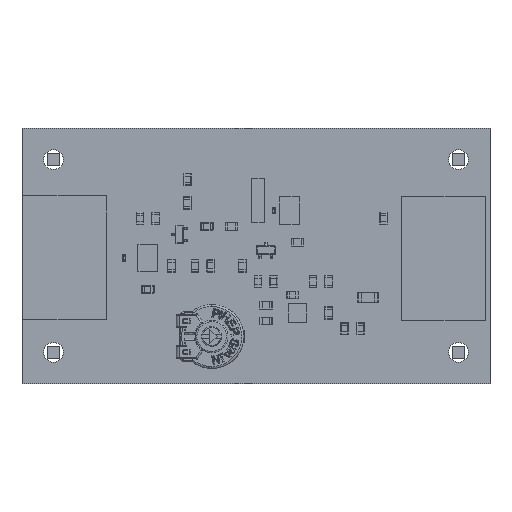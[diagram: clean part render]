
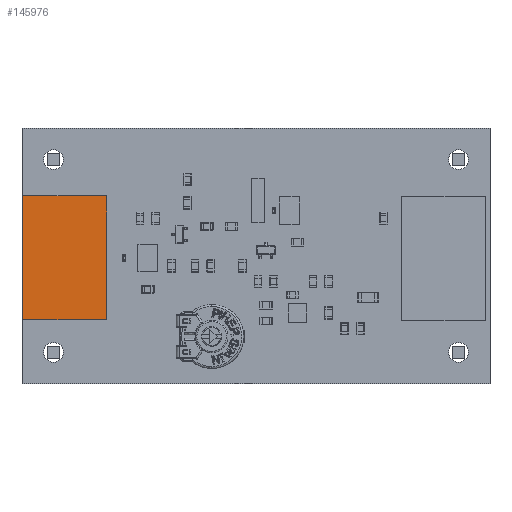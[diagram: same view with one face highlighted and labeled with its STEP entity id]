
A CAD part, top view. The second image highlights one B-rep face of the part: STEP entity #145976.
In plain terms, the highlighted planar face has unit normal (0, 0, 1).
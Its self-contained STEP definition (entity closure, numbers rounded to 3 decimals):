
#145662 = VERTEX_POINT('',#145663);
#145663 = CARTESIAN_POINT('',(-8.75,7.3,1.));
#145670 = PLANE('',#145671);
#145671 = AXIS2_PLACEMENT_3D('',#145672,#145673,#145674);
#145672 = CARTESIAN_POINT('',(-8.75,7.3,0.));
#145673 = DIRECTION('',(0.,1.,0.));
#145674 = DIRECTION('',(1.,0.,0.));
#145682 = PLANE('',#145683);
#145683 = AXIS2_PLACEMENT_3D('',#145684,#145685,#145686);
#145684 = CARTESIAN_POINT('',(-8.75,-6.25,0.));
#145685 = DIRECTION('',(-1.,0.,0.));
#145686 = DIRECTION('',(0.,1.,0.));
#145694 = EDGE_CURVE('',#145662,#145695,#145697,.T.);
#145695 = VERTEX_POINT('',#145696);
#145696 = CARTESIAN_POINT('',(11.25,7.3,1.));
#145697 = SURFACE_CURVE('',#145698,(#145702,#145709),.PCURVE_S1.);
#145698 = LINE('',#145699,#145700);
#145699 = CARTESIAN_POINT('',(-8.75,7.3,1.));
#145700 = VECTOR('',#145701,1.);
#145701 = DIRECTION('',(1.,0.,0.));
#145702 = PCURVE('',#145670,#145703);
#145703 = DEFINITIONAL_REPRESENTATION('',(#145704),#145708);
#145704 = LINE('',#145705,#145706);
#145705 = CARTESIAN_POINT('',(0.,-1.));
#145706 = VECTOR('',#145707,1.);
#145707 = DIRECTION('',(1.,0.));
#145708 = ( GEOMETRIC_REPRESENTATION_CONTEXT(2) 
PARAMETRIC_REPRESENTATION_CONTEXT() REPRESENTATION_CONTEXT('2D SPACE',''
  ) );
#145709 = PCURVE('',#145710,#145715);
#145710 = PLANE('',#145711);
#145711 = AXIS2_PLACEMENT_3D('',#145712,#145713,#145714);
#145712 = CARTESIAN_POINT('',(-8.75,7.3,1.));
#145713 = DIRECTION('',(0.,0.,1.));
#145714 = DIRECTION('',(1.,0.,0.));
#145715 = DEFINITIONAL_REPRESENTATION('',(#145716),#145720);
#145716 = LINE('',#145717,#145718);
#145717 = CARTESIAN_POINT('',(0.,0.));
#145718 = VECTOR('',#145719,1.);
#145719 = DIRECTION('',(1.,0.));
#145720 = ( GEOMETRIC_REPRESENTATION_CONTEXT(2) 
PARAMETRIC_REPRESENTATION_CONTEXT() REPRESENTATION_CONTEXT('2D SPACE',''
  ) );
#145738 = PLANE('',#145739);
#145739 = AXIS2_PLACEMENT_3D('',#145740,#145741,#145742);
#145740 = CARTESIAN_POINT('',(11.25,7.3,0.));
#145741 = DIRECTION('',(1.,0.,0.));
#145742 = DIRECTION('',(0.,-1.,0.));
#145780 = EDGE_CURVE('',#145695,#145781,#145783,.T.);
#145781 = VERTEX_POINT('',#145782);
#145782 = CARTESIAN_POINT('',(11.25,-6.25,1.));
#145783 = SURFACE_CURVE('',#145784,(#145788,#145795),.PCURVE_S1.);
#145784 = LINE('',#145785,#145786);
#145785 = CARTESIAN_POINT('',(11.25,7.3,1.));
#145786 = VECTOR('',#145787,1.);
#145787 = DIRECTION('',(0.,-1.,0.));
#145788 = PCURVE('',#145738,#145789);
#145789 = DEFINITIONAL_REPRESENTATION('',(#145790),#145794);
#145790 = LINE('',#145791,#145792);
#145791 = CARTESIAN_POINT('',(0.,-1.));
#145792 = VECTOR('',#145793,1.);
#145793 = DIRECTION('',(1.,0.));
#145794 = ( GEOMETRIC_REPRESENTATION_CONTEXT(2) 
PARAMETRIC_REPRESENTATION_CONTEXT() REPRESENTATION_CONTEXT('2D SPACE',''
  ) );
#145795 = PCURVE('',#145710,#145796);
#145796 = DEFINITIONAL_REPRESENTATION('',(#145797),#145801);
#145797 = LINE('',#145798,#145799);
#145798 = CARTESIAN_POINT('',(20.,0.));
#145799 = VECTOR('',#145800,1.);
#145800 = DIRECTION('',(0.,-1.));
#145801 = ( GEOMETRIC_REPRESENTATION_CONTEXT(2) 
PARAMETRIC_REPRESENTATION_CONTEXT() REPRESENTATION_CONTEXT('2D SPACE',''
  ) );
#145819 = PLANE('',#145820);
#145820 = AXIS2_PLACEMENT_3D('',#145821,#145822,#145823);
#145821 = CARTESIAN_POINT('',(11.25,-6.25,0.));
#145822 = DIRECTION('',(0.,-1.,0.));
#145823 = DIRECTION('',(-1.,0.,0.));
#145856 = EDGE_CURVE('',#145781,#145857,#145859,.T.);
#145857 = VERTEX_POINT('',#145858);
#145858 = CARTESIAN_POINT('',(-8.75,-6.25,1.));
#145859 = SURFACE_CURVE('',#145860,(#145864,#145871),.PCURVE_S1.);
#145860 = LINE('',#145861,#145862);
#145861 = CARTESIAN_POINT('',(11.25,-6.25,1.));
#145862 = VECTOR('',#145863,1.);
#145863 = DIRECTION('',(-1.,0.,0.));
#145864 = PCURVE('',#145819,#145865);
#145865 = DEFINITIONAL_REPRESENTATION('',(#145866),#145870);
#145866 = LINE('',#145867,#145868);
#145867 = CARTESIAN_POINT('',(0.,-1.));
#145868 = VECTOR('',#145869,1.);
#145869 = DIRECTION('',(1.,0.));
#145870 = ( GEOMETRIC_REPRESENTATION_CONTEXT(2) 
PARAMETRIC_REPRESENTATION_CONTEXT() REPRESENTATION_CONTEXT('2D SPACE',''
  ) );
#145871 = PCURVE('',#145710,#145872);
#145872 = DEFINITIONAL_REPRESENTATION('',(#145873),#145877);
#145873 = LINE('',#145874,#145875);
#145874 = CARTESIAN_POINT('',(20.,-13.55));
#145875 = VECTOR('',#145876,1.);
#145876 = DIRECTION('',(-1.,0.));
#145877 = ( GEOMETRIC_REPRESENTATION_CONTEXT(2) 
PARAMETRIC_REPRESENTATION_CONTEXT() REPRESENTATION_CONTEXT('2D SPACE',''
  ) );
#145927 = EDGE_CURVE('',#145857,#145662,#145928,.T.);
#145928 = SURFACE_CURVE('',#145929,(#145933,#145940),.PCURVE_S1.);
#145929 = LINE('',#145930,#145931);
#145930 = CARTESIAN_POINT('',(-8.75,-6.25,1.));
#145931 = VECTOR('',#145932,1.);
#145932 = DIRECTION('',(0.,1.,0.));
#145933 = PCURVE('',#145682,#145934);
#145934 = DEFINITIONAL_REPRESENTATION('',(#145935),#145939);
#145935 = LINE('',#145936,#145937);
#145936 = CARTESIAN_POINT('',(0.,-1.));
#145937 = VECTOR('',#145938,1.);
#145938 = DIRECTION('',(1.,0.));
#145939 = ( GEOMETRIC_REPRESENTATION_CONTEXT(2) 
PARAMETRIC_REPRESENTATION_CONTEXT() REPRESENTATION_CONTEXT('2D SPACE',''
  ) );
#145940 = PCURVE('',#145710,#145941);
#145941 = DEFINITIONAL_REPRESENTATION('',(#145942),#145946);
#145942 = LINE('',#145943,#145944);
#145943 = CARTESIAN_POINT('',(0.,-13.55));
#145944 = VECTOR('',#145945,1.);
#145945 = DIRECTION('',(0.,1.));
#145946 = ( GEOMETRIC_REPRESENTATION_CONTEXT(2) 
PARAMETRIC_REPRESENTATION_CONTEXT() REPRESENTATION_CONTEXT('2D SPACE',''
  ) );
#145976 = ADVANCED_FACE('',(#145977),#145710,.T.);
#145977 = FACE_BOUND('',#145978,.F.);
#145978 = EDGE_LOOP('',(#145979,#145980,#145981,#145982));
#145979 = ORIENTED_EDGE('',*,*,#145694,.T.);
#145980 = ORIENTED_EDGE('',*,*,#145780,.T.);
#145981 = ORIENTED_EDGE('',*,*,#145856,.T.);
#145982 = ORIENTED_EDGE('',*,*,#145927,.T.);
